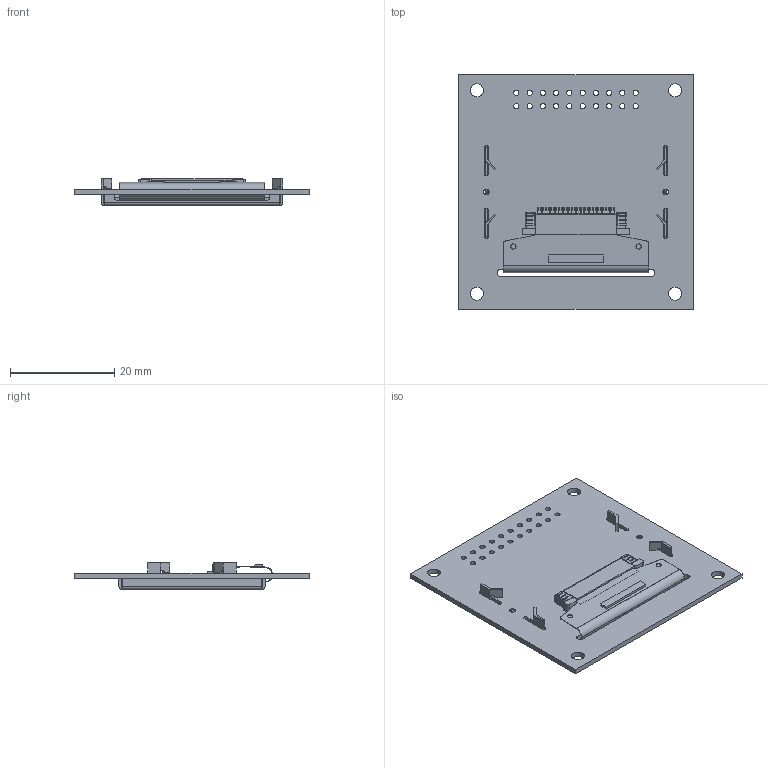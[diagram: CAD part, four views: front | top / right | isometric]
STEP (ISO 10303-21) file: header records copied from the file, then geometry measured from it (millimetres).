
FILE_DESCRIPTION (( 'STEP AP203' ), '1' );
FILE_NAME ('NHD-1.27-12896UGC3.STEP', '2024-05-15T16:10:37', ( '' ), ( '' ), 'SwSTEP 2.0', 'SolidWorks 2019', '' );
FILE_SCHEMA (( 'CONFIG_CONTROL_DESIGN' ));
Length unit declared in the file: millimetre
Products named in the file (2): NHD-1.27-12896UGC3
Bounding box: 45 x 45 x 5.1 mm (x, y, z)
Surface area: 9263.9 mm2 (no closed solid volume)
Topology: 0 solids, 115 shells, 3422 faces, 11373 edges, 7625 vertices
Faces by surface type: plane 2147, cylinder 1246, bspline 29
Entity records: 127527 total; most frequent: CARTESIAN_POINT 32468, ORIENTED_EDGE 21913, DIRECTION 16652, EDGE_CURVE 11367, VERTEX_POINT 7623, VECTOR 7040, LINE 7040, AXIS2_PLACEMENT_3D 4806
